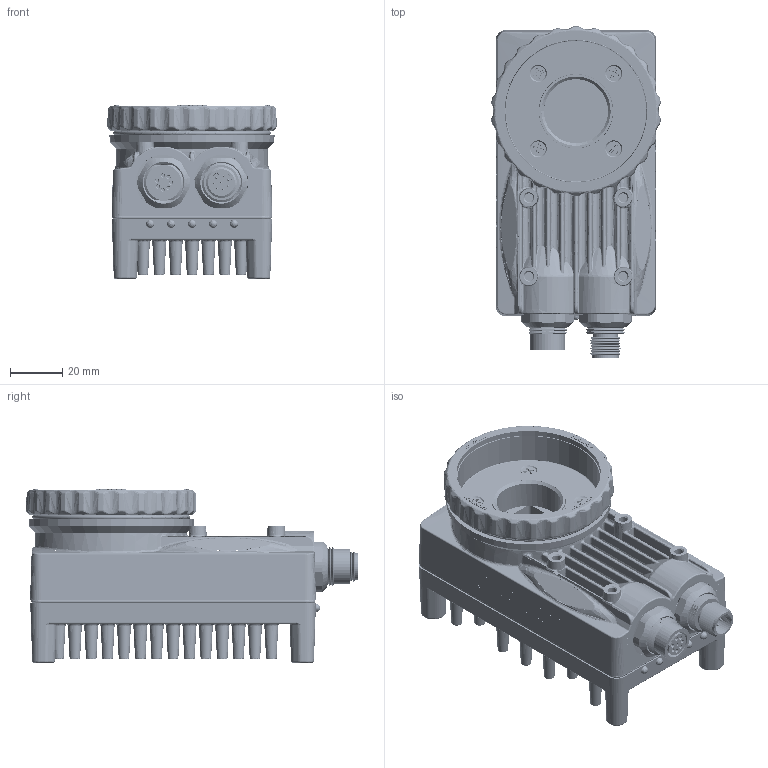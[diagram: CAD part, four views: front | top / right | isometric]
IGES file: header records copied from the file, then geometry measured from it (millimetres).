
Start section: SolidWorks IGES file using analytic representation for surfaces
Global section: file name: Y:\IS006\IS006-07\IS006-07_6-16-10.IGS; native system: SolidWorks 2010; preprocessor: SolidWorks 2010; author: rgainer; date: 100616.153426; units: millimetre
Bounding box: 64.71 x 126.66 x 66.36 mm (x, y, z)
Surface area: 73384.5 mm2 (no closed solid volume)
Topology: 0 solids, 0 shells, 4074 faces, 37310 edges, 37263 vertices
Faces by surface type: bspline 2961, revolution 1113
